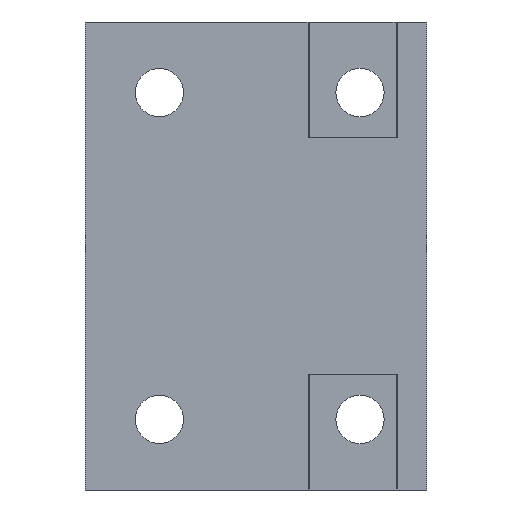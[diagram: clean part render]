
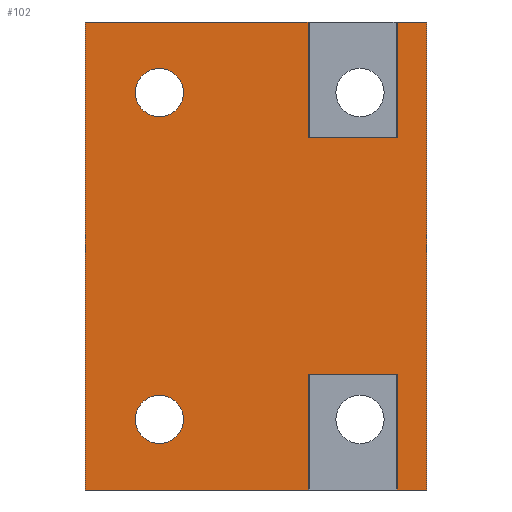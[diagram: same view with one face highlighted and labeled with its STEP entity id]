
A CAD part, front view. The second image highlights one B-rep face of the part: STEP entity #102.
In plain terms, the highlighted planar face has unit normal (0, -1, 0).
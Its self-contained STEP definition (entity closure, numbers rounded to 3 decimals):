
#26 = EDGE_CURVE ( 'NONE', #37, #31, #692, .T. ) ;
#31 = VERTEX_POINT ( 'NONE', #781 ) ;
#37 = VERTEX_POINT ( 'NONE', #770 ) ;
#72 = ORIENTED_EDGE ( 'NONE', *, *, #26, .T. ) ;
#73 = EDGE_LOOP ( 'NONE', ( #74, #76 ) ) ;
#74 = ORIENTED_EDGE ( 'NONE', *, *, #75, .T. ) ;
#75 = EDGE_CURVE ( 'NONE', #289, #288, #864, .T. ) ;
#76 = ORIENTED_EDGE ( 'NONE', *, *, #287, .T. ) ;
#77 = EDGE_LOOP ( 'NONE', ( #78, #134, #136, #137, #139, #140, #142, #143, #79, #80, #83, #86 ) ) ;
#78 = ORIENTED_EDGE ( 'NONE', *, *, #101, .T. ) ;
#79 = ORIENTED_EDGE ( 'NONE', *, *, #275, .T. ) ;
#80 = ORIENTED_EDGE ( 'NONE', *, *, #81, .T. ) ;
#81 = EDGE_CURVE ( 'NONE', #254, #82, #859, .T. ) ;
#82 = VERTEX_POINT ( 'NONE', #855 ) ;
#83 = ORIENTED_EDGE ( 'NONE', *, *, #84, .F. ) ;
#84 = EDGE_CURVE ( 'NONE', #85, #82, #854, .T. ) ;
#85 = VERTEX_POINT ( 'NONE', #718 ) ;
#86 = ORIENTED_EDGE ( 'NONE', *, *, #87, .F. ) ;
#87 = EDGE_CURVE ( 'NONE', #127, #85, #717, .T. ) ;
#101 = EDGE_CURVE ( 'NONE', #127, #133, #851, .T. ) ;
#102 = ADVANCED_FACE ( 'NONE', ( #844, #843, #842 ), #841, .F. ) ;
#103 = EDGE_LOOP ( 'NONE', ( #104, #72 ) ) ;
#104 = ORIENTED_EDGE ( 'NONE', *, *, #105, .T. ) ;
#105 = EDGE_CURVE ( 'NONE', #31, #37, #835, .T. ) ;
#127 = VERTEX_POINT ( 'NONE', #790 ) ;
#133 = VERTEX_POINT ( 'NONE', #684 ) ;
#134 = ORIENTED_EDGE ( 'NONE', *, *, #135, .F. ) ;
#135 = EDGE_CURVE ( 'NONE', #184, #133, #754, .T. ) ;
#136 = ORIENTED_EDGE ( 'NONE', *, *, #197, .F. ) ;
#137 = ORIENTED_EDGE ( 'NONE', *, *, #138, .F. ) ;
#138 = EDGE_CURVE ( 'NONE', #298, #195, #750, .T. ) ;
#139 = ORIENTED_EDGE ( 'NONE', *, *, #297, .T. ) ;
#140 = ORIENTED_EDGE ( 'NONE', *, *, #141, .T. ) ;
#141 = EDGE_CURVE ( 'NONE', #281, #165, #746, .T. ) ;
#142 = ORIENTED_EDGE ( 'NONE', *, *, #269, .F. ) ;
#143 = ORIENTED_EDGE ( 'NONE', *, *, #144, .F. ) ;
#144 = EDGE_CURVE ( 'NONE', #247, #172, #742, .T. ) ;
#165 = VERTEX_POINT ( 'NONE', #913 ) ;
#172 = VERTEX_POINT ( 'NONE', #990 ) ;
#184 = VERTEX_POINT ( 'NONE', #962 ) ;
#195 = VERTEX_POINT ( 'NONE', #995 ) ;
#197 = EDGE_CURVE ( 'NONE', #195, #184, #1143, .T. ) ;
#247 = VERTEX_POINT ( 'NONE', #1067 ) ;
#254 = VERTEX_POINT ( 'NONE', #1056 ) ;
#269 = EDGE_CURVE ( 'NONE', #172, #165, #1037, .T. ) ;
#275 = EDGE_CURVE ( 'NONE', #247, #254, #1014, .T. ) ;
#281 = VERTEX_POINT ( 'NONE', #944 ) ;
#287 = EDGE_CURVE ( 'NONE', #288, #289, #1181, .T. ) ;
#288 = VERTEX_POINT ( 'NONE', #1149 ) ;
#289 = VERTEX_POINT ( 'NONE', #1148 ) ;
#297 = EDGE_CURVE ( 'NONE', #298, #281, #1268, .T. ) ;
#298 = VERTEX_POINT ( 'NONE', #1176 ) ;
#679 = DIRECTION ( 'NONE',  ( -1., 0., 0. ) ) ;
#680 = DIRECTION ( 'NONE',  ( 0., 1., 0. ) ) ;
#681 = CARTESIAN_POINT ( 'NONE',  ( -52., 8.5, 44. ) ) ;
#682 = AXIS2_PLACEMENT_3D ( 'NONE', #681, #680, #679 ) ;
#684 = CARTESIAN_POINT ( 'NONE',  ( 12., 8.5, 32. ) ) ;
#692 = CIRCLE ( 'NONE', #682, 6.5 ) ;
#714 = DIRECTION ( 'NONE',  ( 1., 0., 0. ) ) ;
#715 = VECTOR ( 'NONE', #714, 1000. ) ;
#716 = CARTESIAN_POINT ( 'NONE',  ( 12., 8.5, 63. ) ) ;
#717 = LINE ( 'NONE', #716, #715 ) ;
#718 = CARTESIAN_POINT ( 'NONE',  ( 20., 8.5, 63. ) ) ;
#719 = DIRECTION ( 'NONE',  ( 0., 0., -1. ) ) ;
#739 = DIRECTION ( 'NONE',  ( -1., 0., 0. ) ) ;
#740 = VECTOR ( 'NONE', #739, 1000. ) ;
#741 = CARTESIAN_POINT ( 'NONE',  ( -72., 8.5, -32. ) ) ;
#742 = LINE ( 'NONE', #741, #740 ) ;
#743 = DIRECTION ( 'NONE',  ( 1., 0., 0. ) ) ;
#744 = VECTOR ( 'NONE', #743, 1000. ) ;
#745 = CARTESIAN_POINT ( 'NONE',  ( -72., 8.5, -63. ) ) ;
#746 = LINE ( 'NONE', #745, #744 ) ;
#747 = DIRECTION ( 'NONE',  ( 1., 0., 0. ) ) ;
#748 = VECTOR ( 'NONE', #747, 1000. ) ;
#749 = CARTESIAN_POINT ( 'NONE',  ( -72., 8.5, 63. ) ) ;
#750 = LINE ( 'NONE', #749, #748 ) ;
#751 = DIRECTION ( 'NONE',  ( 1., 0., 0. ) ) ;
#752 = VECTOR ( 'NONE', #751, 1000. ) ;
#753 = CARTESIAN_POINT ( 'NONE',  ( -72., 8.5, 32. ) ) ;
#754 = LINE ( 'NONE', #753, #752 ) ;
#770 = CARTESIAN_POINT ( 'NONE',  ( -52., 8.5, 37.5 ) ) ;
#781 = CARTESIAN_POINT ( 'NONE',  ( -52., 8.5, 50.5 ) ) ;
#790 = CARTESIAN_POINT ( 'NONE',  ( 12., 8.5, 63. ) ) ;
#832 = DIRECTION ( 'NONE',  ( -1., 0., 0. ) ) ;
#833 = DIRECTION ( 'NONE',  ( 0., 1., 0. ) ) ;
#834 = AXIS2_PLACEMENT_3D ( 'NONE', #839, #833, #832 ) ;
#835 = CIRCLE ( 'NONE', #834, 6.5 ) ;
#836 = DIRECTION ( 'NONE',  ( -1., 0., 0. ) ) ;
#837 = DIRECTION ( 'NONE',  ( 0., 1., 0. ) ) ;
#838 = AXIS2_PLACEMENT_3D ( 'NONE', #840, #837, #836 ) ;
#839 = CARTESIAN_POINT ( 'NONE',  ( -52., 8.5, 44. ) ) ;
#840 = CARTESIAN_POINT ( 'NONE',  ( 12., 8.5, 63. ) ) ;
#841 = PLANE ( 'NONE',  #838 ) ;
#842 = FACE_OUTER_BOUND ( 'NONE', #77, .T. ) ;
#843 = FACE_BOUND ( 'NONE', #73, .T. ) ;
#844 = FACE_BOUND ( 'NONE', #103, .T. ) ;
#845 = DIRECTION ( 'NONE',  ( 0., 0., -1. ) ) ;
#846 = VECTOR ( 'NONE', #845, 1000. ) ;
#847 = CARTESIAN_POINT ( 'NONE',  ( 12., 8.5, 63. ) ) ;
#851 = LINE ( 'NONE', #847, #846 ) ;
#852 = VECTOR ( 'NONE', #719, 1000. ) ;
#853 = CARTESIAN_POINT ( 'NONE',  ( 20., 8.5, 63. ) ) ;
#854 = LINE ( 'NONE', #853, #852 ) ;
#855 = CARTESIAN_POINT ( 'NONE',  ( 20., 8.5, -63. ) ) ;
#856 = DIRECTION ( 'NONE',  ( 1., 0., 0. ) ) ;
#857 = VECTOR ( 'NONE', #856, 1000. ) ;
#858 = CARTESIAN_POINT ( 'NONE',  ( 12., 8.5, -63. ) ) ;
#859 = LINE ( 'NONE', #858, #857 ) ;
#860 = DIRECTION ( 'NONE',  ( -1., 0., 0. ) ) ;
#861 = DIRECTION ( 'NONE',  ( 0., 1., 0. ) ) ;
#862 = CARTESIAN_POINT ( 'NONE',  ( -52., 8.5, -44. ) ) ;
#863 = AXIS2_PLACEMENT_3D ( 'NONE', #862, #861, #860 ) ;
#864 = CIRCLE ( 'NONE', #863, 6.5 ) ;
#913 = CARTESIAN_POINT ( 'NONE',  ( -12., 8.5, -63. ) ) ;
#944 = CARTESIAN_POINT ( 'NONE',  ( -72., 8.5, -63. ) ) ;
#962 = CARTESIAN_POINT ( 'NONE',  ( -12., 8.5, 32. ) ) ;
#990 = CARTESIAN_POINT ( 'NONE',  ( -12., 8.5, -32. ) ) ;
#995 = CARTESIAN_POINT ( 'NONE',  ( -12., 8.5, 63. ) ) ;
#1011 = DIRECTION ( 'NONE',  ( 0., 0., -1. ) ) ;
#1012 = VECTOR ( 'NONE', #1011, 1000. ) ;
#1013 = CARTESIAN_POINT ( 'NONE',  ( 12., 8.5, 63. ) ) ;
#1014 = LINE ( 'NONE', #1013, #1012 ) ;
#1034 = DIRECTION ( 'NONE',  ( 0., 0., -1. ) ) ;
#1035 = VECTOR ( 'NONE', #1034, 1000. ) ;
#1036 = CARTESIAN_POINT ( 'NONE',  ( -12., 8.5, 63. ) ) ;
#1037 = LINE ( 'NONE', #1036, #1035 ) ;
#1056 = CARTESIAN_POINT ( 'NONE',  ( 12., 8.5, -63. ) ) ;
#1067 = CARTESIAN_POINT ( 'NONE',  ( 12., 8.5, -32. ) ) ;
#1140 = DIRECTION ( 'NONE',  ( 0., 0., -1. ) ) ;
#1141 = VECTOR ( 'NONE', #1140, 1000. ) ;
#1142 = CARTESIAN_POINT ( 'NONE',  ( -12., 8.5, 63. ) ) ;
#1143 = LINE ( 'NONE', #1142, #1141 ) ;
#1148 = CARTESIAN_POINT ( 'NONE',  ( -52., 8.5, -37.5 ) ) ;
#1149 = CARTESIAN_POINT ( 'NONE',  ( -52., 8.5, -50.5 ) ) ;
#1150 = DIRECTION ( 'NONE',  ( -1., 0., 0. ) ) ;
#1176 = CARTESIAN_POINT ( 'NONE',  ( -72., 8.5, 63. ) ) ;
#1177 = DIRECTION ( 'NONE',  ( 0., 0., -1. ) ) ;
#1178 = VECTOR ( 'NONE', #1177, 1000. ) ;
#1181 = CIRCLE ( 'NONE', #1257, 6.5 ) ;
#1256 = DIRECTION ( 'NONE',  ( 0., 1., 0. ) ) ;
#1257 = AXIS2_PLACEMENT_3D ( 'NONE', #1288, #1256, #1150 ) ;
#1267 = CARTESIAN_POINT ( 'NONE',  ( -72., 8.5, 63. ) ) ;
#1268 = LINE ( 'NONE', #1267, #1178 ) ;
#1288 = CARTESIAN_POINT ( 'NONE',  ( -52., 8.5, -44. ) ) ;
